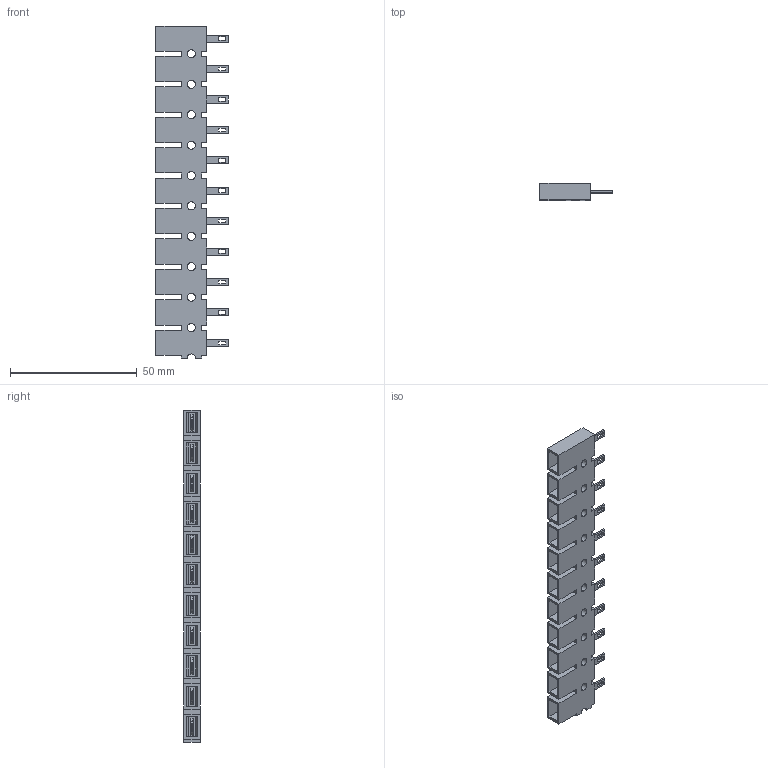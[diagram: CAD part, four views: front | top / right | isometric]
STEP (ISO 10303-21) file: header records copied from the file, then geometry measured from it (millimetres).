
FILE_DESCRIPTION (( 'STEP AP203' ), '1' );
FILE_NAME ('401-LFPA-4.8-11.STEP', '2019-01-14T02:00:32', ( '' ), ( '' ), 'SwSTEP 2.0', 'SolidWorks 2016', '' );
FILE_SCHEMA (( 'CONFIG_CONTROL_DESIGN' ));
Length unit declared in the file: millimetre
Products named in the file (1): 401-LFPA-4.8-11
Bounding box: 28.5 x 6.5 x 131 mm (x, y, z)
Volume: 9657 mm3; surface area: 14930.2 mm2
Topology: 1 solids, 1 shells, 641 faces, 1763 edges, 1168 vertices
Faces by surface type: plane 487, cylinder 154
Entity records: 21184 total; most frequent: CARTESIAN_POINT 5047, ORIENTED_EDGE 3526, DIRECTION 2937, EDGE_CURVE 1763, VECTOR 1301, LINE 1301, VERTEX_POINT 1168, AXIS2_PLACEMENT_3D 818
